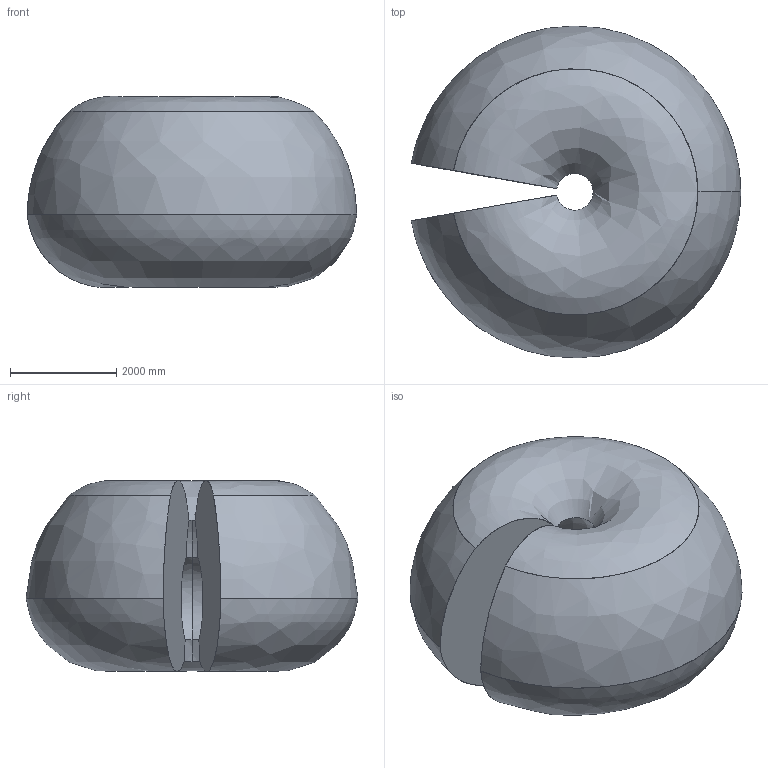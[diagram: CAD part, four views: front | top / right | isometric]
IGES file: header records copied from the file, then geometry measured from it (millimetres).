
Start section: SolidWorks IGES file using analytic representation for surfaces
Global section: file name: C:\Users\SEJAOLS6\OneDrive - ABB\Documents\SAP\7720\7720_Lightweight_models\IRB7720-MH3_530kg-310_OC_01_SW_J\IRB7710-MH3_530kg-310_OC_01_IGES_J\IRB7720_All-310_OC_00_Working-space.igs; native system: SolidWorks 2024; preprocessor: SolidWorks 2024; author: SEJAOLS6; date: 260127.083007; units: millimetre
Bounding box: 6198.03 x 6245.16 x 3594.37 mm (x, y, z)
Surface area: 123120976.9 mm2 (no closed solid volume)
Topology: 0 solids, 0 shells, 12 faces, 292 edges, 292 vertices
Faces by surface type: bspline 12
